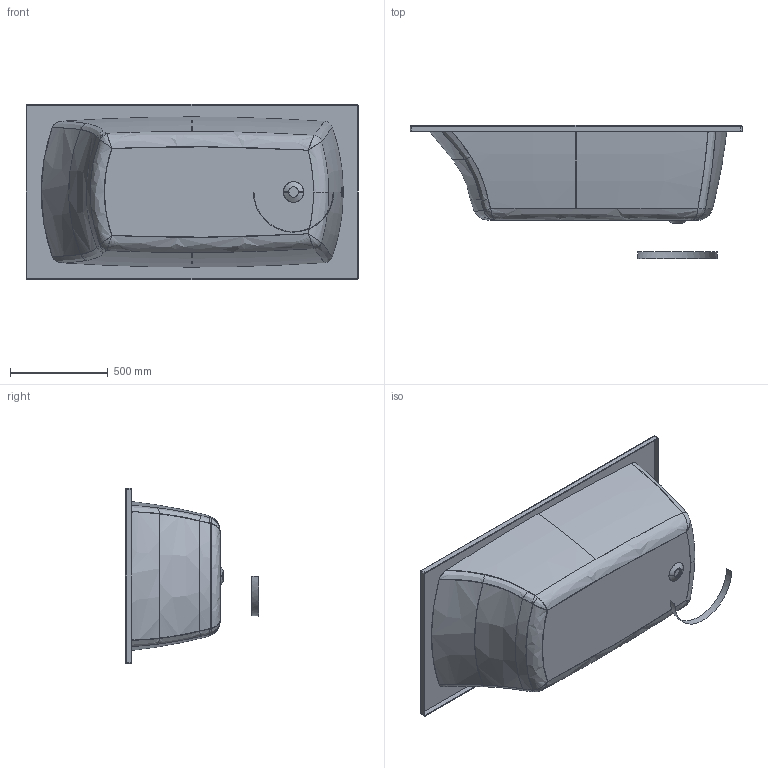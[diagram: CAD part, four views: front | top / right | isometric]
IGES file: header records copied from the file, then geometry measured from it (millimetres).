
Start section: SolidWorks IGES file using analytic representation for surfaces
Global section: file name: D:\Users\M.Szymanski\Desktop\Wanny\Largo\03. do przegrania\gotowe\WP_LA 170x90.IGS; native system: SolidWorks 2011; preprocessor: SolidWorks 2011; author: M.Szymanski; date: 180607.132414; units: millimetre
Bounding box: 1700 x 681.1 x 900 mm (x, y, z)
Surface area: 6085220.5 mm2 (no closed solid volume)
Topology: 0 solids, 0 shells, 118 faces, 1499 edges, 1489 vertices
Faces by surface type: bspline 90, revolution 28
